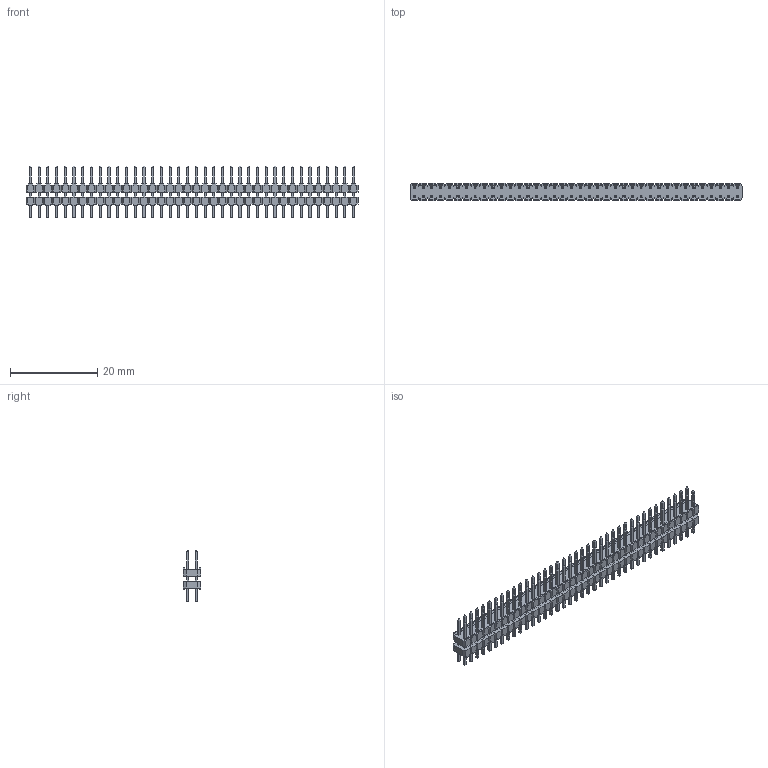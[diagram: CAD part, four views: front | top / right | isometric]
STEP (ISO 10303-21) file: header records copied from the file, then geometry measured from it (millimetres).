
FILE_DESCRIPTION(/* description */ (''),/* implementation_level */ '2;1');
FILE_NAME(/* name */ '951476-8011106-AR',/* time_stamp */ '2007-03-14T08:39:22+01:00',/* author */ (''),/* organization */ (''),/* preprocessor_version */ 'ST-DEVELOPER v9',/* originating_system */ 'UGS - NX 4.0',/* authorisation */ '');
FILE_SCHEMA (('AUTOMOTIVE_DESIGN { 1 0 10303 214 1 1 1 1 }'));
Products named in the file (1): 951476-8011106-AR
Bounding box: 76 x 4 x 11.9 mm (x, y, z)
Volume: 1116.7 mm3; surface area: 3290.3 mm2
Topology: 1 solids, 1 shells, 2744 faces, 7156 edges, 4568 vertices
Faces by surface type: plane 2440, cylinder 304
Entity records: 82124 total; most frequent: CARTESIAN_POINT 14469, ORIENTED_EDGE 14312, DIRECTION 12950, EDGE_CURVE 7156, LINE 6852, VECTOR 6852, VERTEX_POINT 4568, AXIS2_PLACEMENT_3D 3049
